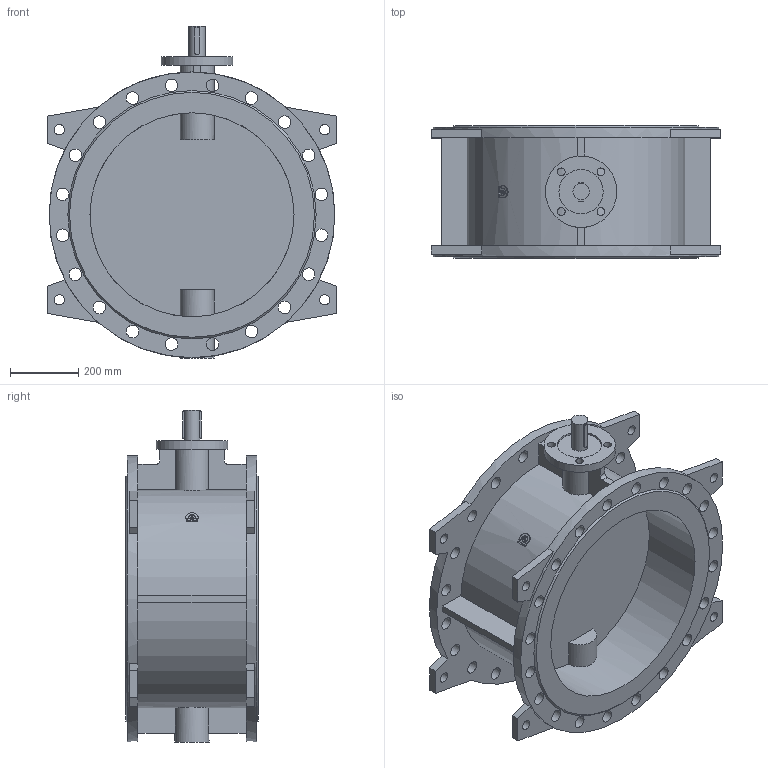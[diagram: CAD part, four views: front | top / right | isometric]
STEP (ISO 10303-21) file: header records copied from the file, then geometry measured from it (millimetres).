
FILE_DESCRIPTION(('STEP AP203'), '1');
FILE_NAME('Çàòâîð 023F.Z DN600 PN16_èñï', '', ('UNSPECIFIED'), ('UNSPECIFIED'), 'ASCON STEP Converter 1.6', 'ASCON Math Kernel', '');
FILE_SCHEMA(('CONFIG_CONTROL_DESIGN'));
Length unit declared in the file: millimetre
Bounding box: 850 x 390 x 976 mm (x, y, z)
Volume: 51295554.9 mm3; surface area: 3573833.3 mm2
Topology: 1 solids, 1 shells, 166 faces, 453 edges, 302 vertices
Faces by surface type: plane 85, cylinder 79, cone 2
Full cylindrical faces by diameter (mm): 23 x4, 30 x8, 37 x40, 48 x1, 100 x1, 130 x1, 210 x1, 600 x2, 840 x2
Entity records: 7599 total; most frequent: CARTESIAN_POINT 1927, DIRECTION 878, ORIENTED_EDGE 780, EDGE_CURVE 390, EDGE_LOOP 346, AXIS2_PLACEMENT_3D 340, VERTEX_POINT 302, FACE_BOUND 226
